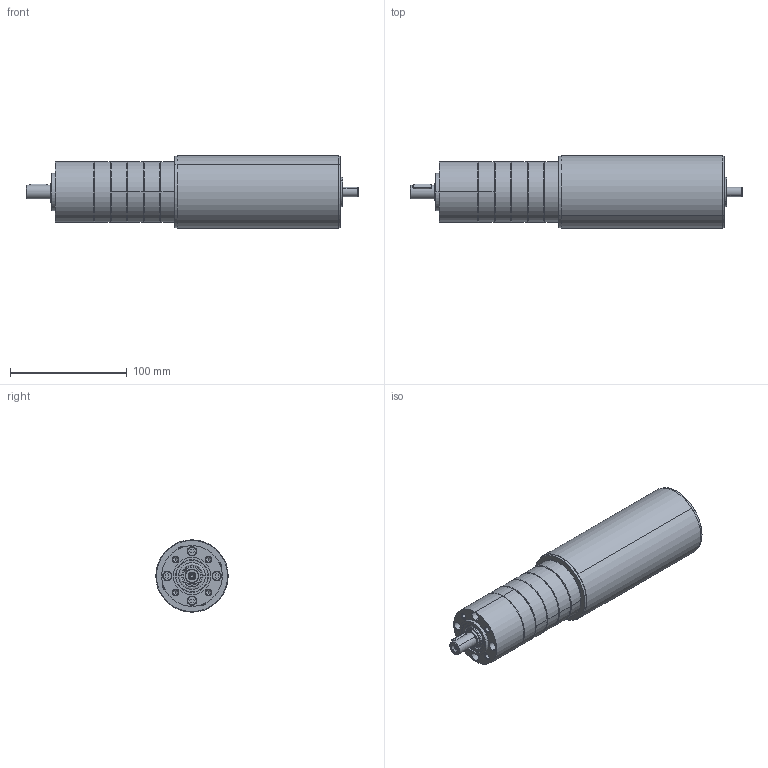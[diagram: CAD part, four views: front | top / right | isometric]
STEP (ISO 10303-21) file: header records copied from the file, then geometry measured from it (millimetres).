
FILE_DESCRIPTION (( 'STEP AP214' ), '1' );
FILE_NAME ('1.25.058-PM52 4 etages.STEP', '2016-01-26T15:55:07', ( '' ), ( '' ), 'SwSTEP 2.0', 'SolidWorks 2014', '' );
FILE_SCHEMA (( 'AUTOMOTIVE_DESIGN' ));
Length unit declared in the file: millimetre
Products named in the file (17): 1.25.058-PM52 4 etages; 1.25.058.4XX_Part; FLANSCH_1210976_1; PM52 pour EC45Flat-70W_4 etages; Coté moteur^PM52 pour EC45Flat-70W; Coté sortie^PM52 pour EC45Flat-70W; SCHRAUBE_1241978_6; 4X4X16_D6885A_2; D471_12X1_5_2; 8102168_ABTRIEB_LK1_KPL_2; GK2152_POS31_2_LAGERBOLZEN_2; 8101171_ABTRIEB_ROHTEIL_AF0_2; DIN998_PS_12X18X1_2; D625-6001-2RS_2; 8006231_LAGERFLANSCH_2; 8006405_DICHTRING_2; 8006230_ZAHNKRANZ_Z46_2
Assembly tree (30 placements, depth 5):
  1.25.058-PM52 4 etages
    PM52 pour EC45Flat-70W_4 etages
      8006230_ZAHNKRANZ_Z46_2  x4
      8006405_DICHTRING_2  x3
      Coté sortie^PM52 pour EC45Flat-70W
        8006231_LAGERFLANSCH_2
        D625-6001-2RS_2  x2
        DIN998_PS_12X18X1_2  x2
        8102168_ABTRIEB_LK1_KPL_2
          8101171_ABTRIEB_ROHTEIL_AF0_2
          GK2152_POS31_2_LAGERBOLZEN_2  x3
        D471_12X1_5_2
        4X4X16_D6885A_2
        8006405_DICHTRING_2
        SCHRAUBE_1241978_6  x4
      Coté moteur^PM52 pour EC45Flat-70W
        8006405_DICHTRING_2
    FLANSCH_1210976_1
    1.25.058.4XX_Part
Bounding box: 284.55 x 62 x 62 mm (x, y, z)
Volume: 493902.6 mm3; surface area: 128948 mm2
Topology: 23 solids, 45 shells, 1557 faces, 4113 edges, 2643 vertices
Faces by surface type: cylinder 758, plane 520, cone 227, bspline 52
Entity records: 25867 total; most frequent: CARTESIAN_POINT 4930, DIRECTION 4150, ORIENTED_EDGE 3540, EDGE_CURVE 1790, AXIS2_PLACEMENT_3D 1649, VERTEX_POINT 1145, CIRCLE 902, EDGE_LOOP 871
